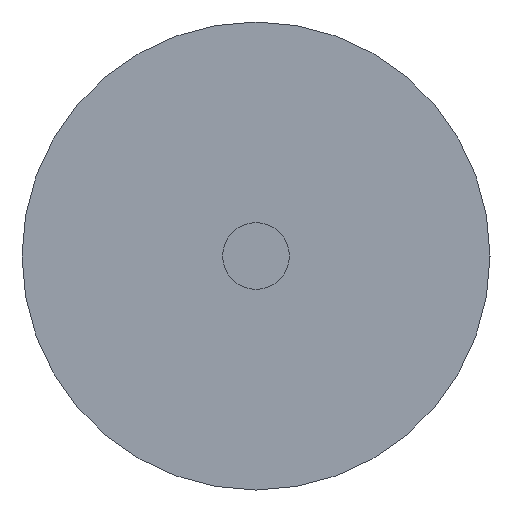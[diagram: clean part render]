
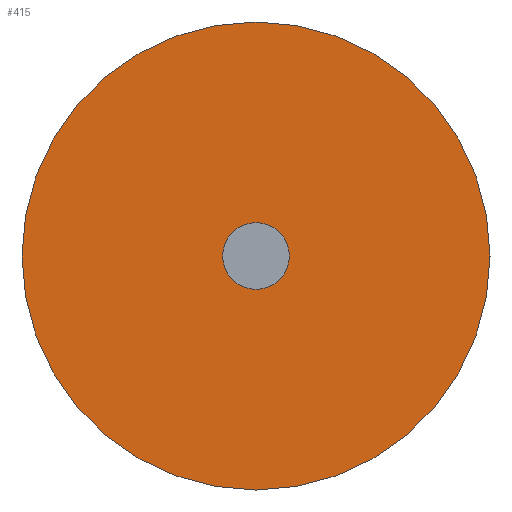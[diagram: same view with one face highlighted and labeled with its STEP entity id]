
A CAD part, left-side view. The second image highlights one B-rep face of the part: STEP entity #415.
In plain terms, the highlighted planar face has unit normal (-1, 0, 0).
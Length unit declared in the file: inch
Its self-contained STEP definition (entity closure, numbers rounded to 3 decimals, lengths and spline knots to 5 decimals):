
#8 = DIRECTION ( 'NONE',  ( 1., 0., 0. ) ) ;
#83 = AXIS2_PLACEMENT_3D ( 'NONE', #613, #1348, #2131 ) ;
#168 = CARTESIAN_POINT ( 'NONE',  ( 0., 0., 0.02 ) ) ;
#176 = FACE_OUTER_BOUND ( 'NONE', #734, .T. ) ;
#184 = EDGE_CURVE ( 'NONE', #2081, #1138, #1130, .T. ) ;
#198 = EDGE_LOOP ( 'NONE', ( #606, #1532 ) ) ;
#347 = AXIS2_PLACEMENT_3D ( 'NONE', #1654, #8, #699 ) ;
#353 = DIRECTION ( 'NONE',  ( -1., 0., 0. ) ) ;
#415 = ADVANCED_FACE ( 'NONE', ( #1854, #176 ), #878, .F. ) ;
#503 = CARTESIAN_POINT ( 'NONE',  ( 0., 0., 0. ) ) ;
#505 = DIRECTION ( 'NONE',  ( -1., 0., 0. ) ) ;
#531 = AXIS2_PLACEMENT_3D ( 'NONE', #2033, #353, #1056 ) ;
#603 = AXIS2_PLACEMENT_3D ( 'NONE', #2193, #505, #1226 ) ;
#606 = ORIENTED_EDGE ( 'NONE', *, *, #2340, .F. ) ;
#613 = CARTESIAN_POINT ( 'NONE',  ( 0., 0., 0. ) ) ;
#699 = DIRECTION ( 'NONE',  ( 0., 0., -1. ) ) ;
#734 = EDGE_LOOP ( 'NONE', ( #1063, #2034 ) ) ;
#827 = CIRCLE ( 'NONE', #531, 0.14037 ) ;
#878 = PLANE ( 'NONE',  #347 ) ;
#930 = CARTESIAN_POINT ( 'NONE',  ( 0., 0., -0.02 ) ) ;
#1056 = DIRECTION ( 'NONE',  ( 0., 0., 1. ) ) ;
#1063 = ORIENTED_EDGE ( 'NONE', *, *, #2373, .T. ) ;
#1089 = EDGE_CURVE ( 'NONE', #1857, #1723, #2059, .T. ) ;
#1130 = CIRCLE ( 'NONE', #83, 0.02 ) ;
#1138 = VERTEX_POINT ( 'NONE', #168 ) ;
#1154 = CARTESIAN_POINT ( 'NONE',  ( 0., 0., 0.14037 ) ) ;
#1203 = CARTESIAN_POINT ( 'NONE',  ( 0., 0., -0.14037 ) ) ;
#1224 = DIRECTION ( 'NONE',  ( -1., 0., 0. ) ) ;
#1226 = DIRECTION ( 'NONE',  ( 0., 0., 1. ) ) ;
#1348 = DIRECTION ( 'NONE',  ( -1., 0., 0. ) ) ;
#1532 = ORIENTED_EDGE ( 'NONE', *, *, #184, .F. ) ;
#1553 = AXIS2_PLACEMENT_3D ( 'NONE', #503, #1224, #2019 ) ;
#1654 = CARTESIAN_POINT ( 'NONE',  ( 0., 0., 0. ) ) ;
#1723 = VERTEX_POINT ( 'NONE', #1154 ) ;
#1854 = FACE_BOUND ( 'NONE', #198, .T. ) ;
#1857 = VERTEX_POINT ( 'NONE', #1203 ) ;
#2004 = CIRCLE ( 'NONE', #603, 0.02 ) ;
#2019 = DIRECTION ( 'NONE',  ( 0., 0., 1. ) ) ;
#2033 = CARTESIAN_POINT ( 'NONE',  ( 0., 0., 0. ) ) ;
#2034 = ORIENTED_EDGE ( 'NONE', *, *, #1089, .T. ) ;
#2059 = CIRCLE ( 'NONE', #1553, 0.14037 ) ;
#2081 = VERTEX_POINT ( 'NONE', #930 ) ;
#2131 = DIRECTION ( 'NONE',  ( 0., 0., 1. ) ) ;
#2193 = CARTESIAN_POINT ( 'NONE',  ( 0., 0., 0. ) ) ;
#2340 = EDGE_CURVE ( 'NONE', #1138, #2081, #2004, .T. ) ;
#2373 = EDGE_CURVE ( 'NONE', #1723, #1857, #827, .T. ) ;
